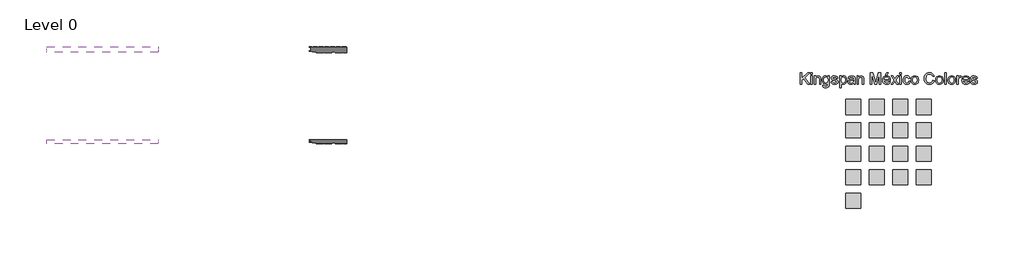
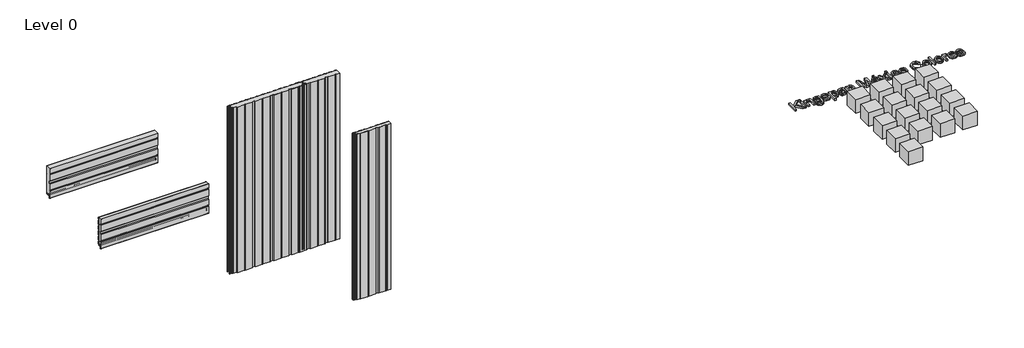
# One storey, incomplete: 18 proxies, 5 plates.
"""IFC4 building model written with IfcOpenShell, lengths in millimetres."""

from ifc_helpers import new_model, si_unit, origin, place, context, project, spatial, transform, mapped, element, save
from components import generic_models_9fd19f98, ks_colour_sample_ks_colour_sample_0243efec, hz_050mm_75f4050c, hz_075mm_1ae5ef9f, vt_050mm_d47c93f8, vt_075mm_f3c19188, vt_075mm_35e04bb8, vt_075mm_6c0b980a

model = new_model("IFC4")

# Units and contexts
model_context = context("Model", 3, world=origin())
ifc_project = project(units=[si_unit("LENGTHUNIT", "METRE", prefix="MILLI")], contexts=[model_context])

# Site, building, storey
site = spatial("IfcSite", under=ifc_project)
building = spatial("IfcBuilding", under=site)
storey = spatial("IfcBuildingStorey", under=building, Name="Level 0", Elevation=0.0)

# Proxies
placement = place(None, origin())
generic_models_shape = generic_models_9fd19f98(model_context)
element("IfcBuildingElementProxy", 1, Name="KIP-MX_ColourRange_Spanish : KIP-MX_ColourRange_Spanish", ObjectType="KIP-MX_ColourRange_Spanish : KIP-MX_ColourRange_Spanish", at=placement, inside=storey, context=model_context, shape_type="MappedRepresentation", body=[
    mapped(generic_models_shape, transform((1966.0629502, 11802.7493823, 0.0), x_axis=(1.0, 0.0, 0.0), y_axis=(0.0, 1.0, 0.0), z_axis=(0.0, 0.0, 1.0))),
])
ks_colour_sample_ks_colour_sample_shape = ks_colour_sample_ks_colour_sample_0243efec(model_context)
element("IfcBuildingElementProxy", 2, Name="KS_Colour Sample : KS_Colour Sample", ObjectType="KS_Colour Sample : KS_Colour Sample", at=placement, inside=storey, context=model_context, shape_type="MappedRepresentation", body=[
    mapped(ks_colour_sample_ks_colour_sample_shape, transform((1501.0629502, 13781.2299273, 0.0), x_axis=(1.0, 0.0, 0.0), y_axis=(0.0, 1.0, 0.0), z_axis=(0.0, 0.0, 1.0))),
])
element("IfcBuildingElementProxy", 3, Name="KS_Colour Sample : KS_Colour Sample", ObjectType="KS_Colour Sample : KS_Colour Sample", at=placement, inside=storey, context=model_context, shape_type="MappedRepresentation", body=[
    mapped(ks_colour_sample_ks_colour_sample_shape, transform((1811.0629502, 13781.2299273, 0.0), x_axis=(1.0, 0.0, 0.0), y_axis=(0.0, 1.0, 0.0), z_axis=(0.0, 0.0, 1.0))),
])
element("IfcBuildingElementProxy", 4, Name="KS_Colour Sample : KS_Colour Sample", ObjectType="KS_Colour Sample : KS_Colour Sample", at=placement, inside=storey, context=model_context, shape_type="MappedRepresentation", body=[
    mapped(ks_colour_sample_ks_colour_sample_shape, transform((2121.0629502, 13781.2299273, 0.0), x_axis=(1.0, 0.0, 0.0), y_axis=(0.0, 1.0, 0.0), z_axis=(0.0, 0.0, 1.0))),
])
element("IfcBuildingElementProxy", 5, Name="KS_Colour Sample : KS_Colour Sample", ObjectType="KS_Colour Sample : KS_Colour Sample", at=placement, inside=storey, context=model_context, shape_type="MappedRepresentation", body=[
    mapped(ks_colour_sample_ks_colour_sample_shape, transform((2431.0629502, 13781.2299273, 0.0), x_axis=(1.0, 0.0, 0.0), y_axis=(0.0, 1.0, 0.0), z_axis=(0.0, 0.0, 1.0))),
])
element("IfcBuildingElementProxy", 6, Name="KS_Colour Sample : KS_Colour Sample", ObjectType="KS_Colour Sample : KS_Colour Sample", at=placement, inside=storey, context=model_context, shape_type="MappedRepresentation", body=[
    mapped(ks_colour_sample_ks_colour_sample_shape, transform((1501.0629502, 13471.2299273, 0.0), x_axis=(1.0, 0.0, 0.0), y_axis=(0.0, 1.0, 0.0), z_axis=(0.0, 0.0, 1.0))),
])
element("IfcBuildingElementProxy", 7, Name="KS_Colour Sample : KS_Colour Sample", ObjectType="KS_Colour Sample : KS_Colour Sample", at=placement, inside=storey, context=model_context, shape_type="MappedRepresentation", body=[
    mapped(ks_colour_sample_ks_colour_sample_shape, transform((1811.0629502, 13471.2299273, 0.0), x_axis=(1.0, 0.0, 0.0), y_axis=(0.0, 1.0, 0.0), z_axis=(0.0, 0.0, 1.0))),
])
element("IfcBuildingElementProxy", 8, Name="KS_Colour Sample : KS_Colour Sample", ObjectType="KS_Colour Sample : KS_Colour Sample", at=placement, inside=storey, context=model_context, shape_type="MappedRepresentation", body=[
    mapped(ks_colour_sample_ks_colour_sample_shape, transform((2121.0629502, 13471.2299273, 0.0), x_axis=(1.0, 0.0, 0.0), y_axis=(0.0, 1.0, 0.0), z_axis=(0.0, 0.0, 1.0))),
])
element("IfcBuildingElementProxy", 9, Name="KS_Colour Sample : KS_Colour Sample", ObjectType="KS_Colour Sample : KS_Colour Sample", at=placement, inside=storey, context=model_context, shape_type="MappedRepresentation", body=[
    mapped(ks_colour_sample_ks_colour_sample_shape, transform((2431.0629502, 13471.2299273, 0.0), x_axis=(1.0, 0.0, 0.0), y_axis=(0.0, 1.0, 0.0), z_axis=(0.0, 0.0, 1.0))),
])
element("IfcBuildingElementProxy", 10, Name="KS_Colour Sample : KS_Colour Sample", ObjectType="KS_Colour Sample : KS_Colour Sample", at=placement, inside=storey, context=model_context, shape_type="MappedRepresentation", body=[
    mapped(ks_colour_sample_ks_colour_sample_shape, transform((1501.0629502, 13161.2299273, 0.0), x_axis=(1.0, 0.0, 0.0), y_axis=(0.0, 1.0, 0.0), z_axis=(0.0, 0.0, 1.0))),
])
element("IfcBuildingElementProxy", 11, Name="KS_Colour Sample : KS_Colour Sample", ObjectType="KS_Colour Sample : KS_Colour Sample", at=placement, inside=storey, context=model_context, shape_type="MappedRepresentation", body=[
    mapped(ks_colour_sample_ks_colour_sample_shape, transform((1811.0629502, 13161.2299273, 0.0), x_axis=(1.0, 0.0, 0.0), y_axis=(0.0, 1.0, 0.0), z_axis=(0.0, 0.0, 1.0))),
])
element("IfcBuildingElementProxy", 12, Name="KS_Colour Sample : KS_Colour Sample", ObjectType="KS_Colour Sample : KS_Colour Sample", at=placement, inside=storey, context=model_context, shape_type="MappedRepresentation", body=[
    mapped(ks_colour_sample_ks_colour_sample_shape, transform((2121.0629502, 13161.2299273, 0.0), x_axis=(1.0, 0.0, 0.0), y_axis=(0.0, 1.0, 0.0), z_axis=(0.0, 0.0, 1.0))),
])
element("IfcBuildingElementProxy", 13, Name="KS_Colour Sample : KS_Colour Sample", ObjectType="KS_Colour Sample : KS_Colour Sample", at=placement, inside=storey, context=model_context, shape_type="MappedRepresentation", body=[
    mapped(ks_colour_sample_ks_colour_sample_shape, transform((2431.0629502, 13161.2299273, 0.0), x_axis=(1.0, 0.0, 0.0), y_axis=(0.0, 1.0, 0.0), z_axis=(0.0, 0.0, 1.0))),
])
element("IfcBuildingElementProxy", 14, Name="KS_Colour Sample : KS_Colour Sample", ObjectType="KS_Colour Sample : KS_Colour Sample", at=placement, inside=storey, context=model_context, shape_type="MappedRepresentation", body=[
    mapped(ks_colour_sample_ks_colour_sample_shape, transform((1501.0629502, 12851.2299273, 0.0), x_axis=(1.0, 0.0, 0.0), y_axis=(0.0, 1.0, 0.0), z_axis=(0.0, 0.0, 1.0))),
])
element("IfcBuildingElementProxy", 15, Name="KS_Colour Sample : KS_Colour Sample", ObjectType="KS_Colour Sample : KS_Colour Sample", at=placement, inside=storey, context=model_context, shape_type="MappedRepresentation", body=[
    mapped(ks_colour_sample_ks_colour_sample_shape, transform((1811.0629502, 12851.2299273, 0.0), x_axis=(1.0, 0.0, 0.0), y_axis=(0.0, 1.0, 0.0), z_axis=(0.0, 0.0, 1.0))),
])
element("IfcBuildingElementProxy", 16, Name="KS_Colour Sample : KS_Colour Sample", ObjectType="KS_Colour Sample : KS_Colour Sample", at=placement, inside=storey, context=model_context, shape_type="MappedRepresentation", body=[
    mapped(ks_colour_sample_ks_colour_sample_shape, transform((2121.0629502, 12851.2299273, 0.0), x_axis=(1.0, 0.0, 0.0), y_axis=(0.0, 1.0, 0.0), z_axis=(0.0, 0.0, 1.0))),
])
element("IfcBuildingElementProxy", 17, Name="KS_Colour Sample : KS_Colour Sample", ObjectType="KS_Colour Sample : KS_Colour Sample", at=placement, inside=storey, context=model_context, shape_type="MappedRepresentation", body=[
    mapped(ks_colour_sample_ks_colour_sample_shape, transform((2431.0629502, 12851.2299273, 0.0), x_axis=(1.0, 0.0, 0.0), y_axis=(0.0, 1.0, 0.0), z_axis=(0.0, 0.0, 1.0))),
])
element("IfcBuildingElementProxy", 18, Name="KS_Colour Sample : KS_Colour Sample", ObjectType="KS_Colour Sample : KS_Colour Sample", at=placement, inside=storey, context=model_context, shape_type="MappedRepresentation", body=[
    mapped(ks_colour_sample_ks_colour_sample_shape, transform((1501.0629502, 12541.2299273, 0.0), x_axis=(1.0, 0.0, 0.0), y_axis=(0.0, 1.0, 0.0), z_axis=(0.0, 0.0, 1.0))),
])

# Plates
hz_050mm_shape = hz_050mm_75f4050c(model_context)
element("IfcPlate", 19, ObjectType="KIP-MEX-KW-R19-CP-Hz-KW7_SL : Hz 050mm", at=placement, inside=storey, context=model_context, shape_type="MappedRepresentation", body=[
    mapped(hz_050mm_shape, transform((-8438.7250935, 13346.6881223, 2000.0), x_axis=(1.0, 0.0, 0.0), y_axis=(0.0, 1.0, 0.0), z_axis=(0.0, 0.0, 1.0))),
])
hz_075mm_shape = hz_075mm_1ae5ef9f(model_context)
element("IfcPlate", 20, ObjectType="KIP-MEX-KW-R19-CP-Hz-KW7_SL : Hz 075mm", at=placement, inside=storey, context=model_context, shape_type="MappedRepresentation", body=[
    mapped(hz_075mm_shape, transform((-8438.7250935, 14580.6646856, 2000.0), x_axis=(1.0, 0.0, 0.0), y_axis=(0.0, 1.0, 0.0), z_axis=(0.0, 0.0, 1.0))),
])
vt_050mm_shape = vt_050mm_d47c93f8(model_context)
element("IfcPlate", 21, ObjectType="KIP-MEX-KW-R19-CP-Vt-KW7_SL : Vt 050mm", at=placement, inside=storey, context=model_context, shape_type="MappedRepresentation", body=[
    mapped(vt_050mm_shape, transform((-5438.9413834, 13346.6881223, 0.0), x_axis=(1.0, 0.0, 0.0), y_axis=(0.0, 1.0, 0.0), z_axis=(0.0, 0.0, 1.0))),
])
vt_075mm_shape = vt_075mm_f3c19188(model_context)
vt_075mm_2_shape = vt_075mm_35e04bb8(model_context)
element("IfcPlate", 22, ObjectType="KIP-MEX-KW-R19-CP-Vt-KW7_SL : Vt 075mm", at=placement, inside=storey, context=model_context, shape_type="MappedRepresentation", body=[
    mapped(vt_075mm_shape, transform((-6178.9413834, 14575.4926205, 0.0), x_axis=(1.0, 0.0, 0.0), y_axis=(0.0, 1.0, 0.0), z_axis=(0.0, 0.0, 1.0))),
    mapped(vt_075mm_2_shape, transform((-6178.9413834, 14575.4926205, 0.0), x_axis=(1.0, 0.0, 0.0), y_axis=(0.0, 1.0, 0.0), z_axis=(0.0, 0.0, 1.0))),
])
vt_075mm_3_shape = vt_075mm_6c0b980a(model_context)
element("IfcPlate", 23, ObjectType="KIP-MEX-KW-R19-CP-Vt-KW7_SL : Vt 075mm", at=placement, inside=storey, context=model_context, shape_type="MappedRepresentation", body=[
    mapped(vt_075mm_3_shape, transform((-5438.9413834, 14575.4926205, 0.0), x_axis=(1.0, 0.0, 0.0), y_axis=(0.0, 1.0, 0.0), z_axis=(0.0, 0.0, 1.0))),
])

save(model, "model.ifc")
